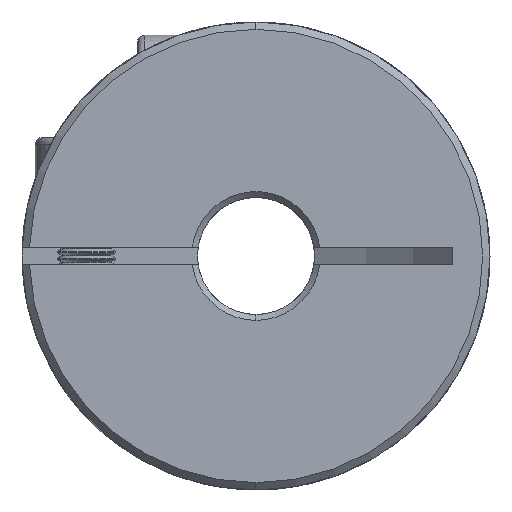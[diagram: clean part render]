
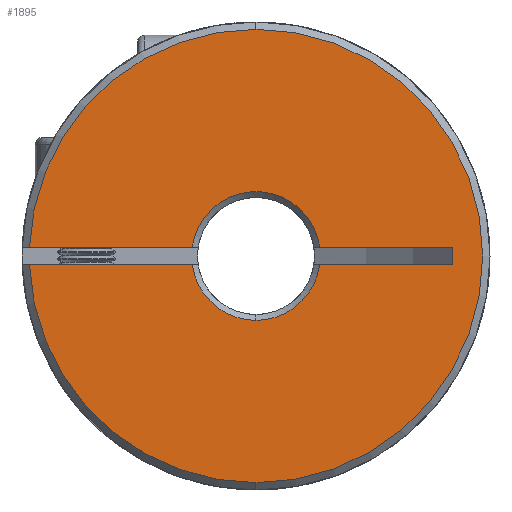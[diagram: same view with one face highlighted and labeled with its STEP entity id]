
A CAD part, front view. The second image highlights one B-rep face of the part: STEP entity #1895.
In plain terms, the highlighted planar face has unit normal (0, -1, 0).
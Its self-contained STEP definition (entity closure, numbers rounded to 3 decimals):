
#118 = ORIENTED_EDGE ( 'NONE', *, *, #6146, .T. ) ;
#186 = DIRECTION ( 'NONE',  ( 0., 1., 0. ) ) ;
#410 = EDGE_CURVE ( 'NONE', #6939, #7212, #11146, .T. ) ;
#692 = VERTEX_POINT ( 'NONE', #717 ) ;
#717 = CARTESIAN_POINT ( 'NONE',  ( 4.359, 0., -0.6 ) ) ;
#764 = VERTEX_POINT ( 'NONE', #2500 ) ;
#821 = AXIS2_PLACEMENT_3D ( 'NONE', #2022, #9935, #6406 ) ;
#934 = EDGE_CURVE ( 'NONE', #692, #9955, #5438, .T. ) ;
#1297 = DIRECTION ( 'NONE',  ( 0., 0., 1. ) ) ;
#1324 = VERTEX_POINT ( 'NONE', #6075 ) ;
#1328 = CARTESIAN_POINT ( 'NONE',  ( 4.359, 0., 0.6 ) ) ;
#1417 = AXIS2_PLACEMENT_3D ( 'NONE', #1776, #8782, #7068 ) ;
#1471 = CARTESIAN_POINT ( 'NONE',  ( -50., 0., -0.6 ) ) ;
#1657 = VERTEX_POINT ( 'NONE', #8753 ) ;
#1734 = CIRCLE ( 'NONE', #5771, 4.4 ) ;
#1776 = CARTESIAN_POINT ( 'NONE',  ( 0., 0., 0. ) ) ;
#1840 = EDGE_CURVE ( 'NONE', #6159, #764, #8676, .T. ) ;
#1847 = CIRCLE ( 'NONE', #6587, 15.5 ) ;
#1867 = DIRECTION ( 'NONE',  ( 0., 0., 1. ) ) ;
#1895 = ADVANCED_FACE ( 'NONE', ( #3779 ), #5806, .F. ) ;
#2022 = CARTESIAN_POINT ( 'NONE',  ( 0., 0., 0. ) ) ;
#2072 = ORIENTED_EDGE ( 'NONE', *, *, #10745, .T. ) ;
#2179 = CARTESIAN_POINT ( 'NONE',  ( 0., 0., 0. ) ) ;
#2254 = CARTESIAN_POINT ( 'NONE',  ( 0., 0., 0. ) ) ;
#2500 = CARTESIAN_POINT ( 'NONE',  ( 0., 0., 15.5 ) ) ;
#2664 = CARTESIAN_POINT ( 'NONE',  ( 0., 0., -4.4 ) ) ;
#3198 = CARTESIAN_POINT ( 'NONE',  ( -15.488, 0., -0.6 ) ) ;
#3264 = EDGE_LOOP ( 'NONE', ( #3733, #4674, #5508, #4346, #5836, #8908, #118, #10288, #6972, #4108, #2072 ) ) ;
#3331 = VECTOR ( 'NONE', #5208, 1000. ) ;
#3517 = VECTOR ( 'NONE', #3980, 1000. ) ;
#3559 = EDGE_CURVE ( 'NONE', #6939, #6159, #10950, .T. ) ;
#3686 = CARTESIAN_POINT ( 'NONE',  ( 0., 0., 0. ) ) ;
#3733 = ORIENTED_EDGE ( 'NONE', *, *, #410, .F. ) ;
#3773 = DIRECTION ( 'NONE',  ( 0., 0., 1. ) ) ;
#3779 = FACE_OUTER_BOUND ( 'NONE', #3264, .T. ) ;
#3830 = EDGE_CURVE ( 'NONE', #692, #5682, #1734, .T. ) ;
#3897 = DIRECTION ( 'NONE',  ( 0., 0., 1. ) ) ;
#3980 = DIRECTION ( 'NONE',  ( 1., 0., 0. ) ) ;
#4108 = ORIENTED_EDGE ( 'NONE', *, *, #3830, .T. ) ;
#4326 = CIRCLE ( 'NONE', #821, 4.4 ) ;
#4340 = CARTESIAN_POINT ( 'NONE',  ( -50., 0., -0.6 ) ) ;
#4346 = ORIENTED_EDGE ( 'NONE', *, *, #5467, .T. ) ;
#4449 = CARTESIAN_POINT ( 'NONE',  ( 13.436, 0., -0.6 ) ) ;
#4674 = ORIENTED_EDGE ( 'NONE', *, *, #3559, .T. ) ;
#4769 = DIRECTION ( 'NONE',  ( 0., 1., 0. ) ) ;
#4809 = CARTESIAN_POINT ( 'NONE',  ( -50., 0., 0.6 ) ) ;
#5032 = CARTESIAN_POINT ( 'NONE',  ( 13.436, 0., -0.6 ) ) ;
#5208 = DIRECTION ( 'NONE',  ( 1., 0., 0. ) ) ;
#5438 = LINE ( 'NONE', #4340, #6919 ) ;
#5467 = EDGE_CURVE ( 'NONE', #764, #1324, #1847, .T. ) ;
#5508 = ORIENTED_EDGE ( 'NONE', *, *, #1840, .T. ) ;
#5659 = DIRECTION ( 'NONE',  ( 0., -1., 0. ) ) ;
#5682 = VERTEX_POINT ( 'NONE', #2664 ) ;
#5741 = VERTEX_POINT ( 'NONE', #8785 ) ;
#5771 = AXIS2_PLACEMENT_3D ( 'NONE', #3686, #186, #1867 ) ;
#5806 = PLANE ( 'NONE',  #8892 ) ;
#5836 = ORIENTED_EDGE ( 'NONE', *, *, #6391, .T. ) ;
#5929 = CIRCLE ( 'NONE', #1417, 4.4 ) ;
#6059 = EDGE_CURVE ( 'NONE', #5741, #7280, #5929, .T. ) ;
#6075 = CARTESIAN_POINT ( 'NONE',  ( -15.488, 0., 0.6 ) ) ;
#6146 = EDGE_CURVE ( 'NONE', #7280, #1657, #9187, .T. ) ;
#6159 = VERTEX_POINT ( 'NONE', #8859 ) ;
#6391 = EDGE_CURVE ( 'NONE', #1324, #5741, #9613, .T. ) ;
#6406 = DIRECTION ( 'NONE',  ( 0., 0., 1. ) ) ;
#6468 = CARTESIAN_POINT ( 'NONE',  ( -4.359, 0., -0.6 ) ) ;
#6469 = EDGE_CURVE ( 'NONE', #1657, #9955, #8645, .T. ) ;
#6567 = CARTESIAN_POINT ( 'NONE',  ( -50., 0., -18.413 ) ) ;
#6587 = AXIS2_PLACEMENT_3D ( 'NONE', #2254, #10039, #1297 ) ;
#6692 = DIRECTION ( 'NONE',  ( 0., 0., 1. ) ) ;
#6700 = AXIS2_PLACEMENT_3D ( 'NONE', #8470, #10220, #6692 ) ;
#6919 = VECTOR ( 'NONE', #7196, 1000. ) ;
#6939 = VERTEX_POINT ( 'NONE', #3198 ) ;
#6972 = ORIENTED_EDGE ( 'NONE', *, *, #934, .F. ) ;
#7068 = DIRECTION ( 'NONE',  ( 0., 0., 1. ) ) ;
#7196 = DIRECTION ( 'NONE',  ( 1., 0., 0. ) ) ;
#7212 = VERTEX_POINT ( 'NONE', #6468 ) ;
#7280 = VERTEX_POINT ( 'NONE', #1328 ) ;
#7291 = VECTOR ( 'NONE', #9112, 1000. ) ;
#8378 = DIRECTION ( 'NONE',  ( 0., 0., -1. ) ) ;
#8470 = CARTESIAN_POINT ( 'NONE',  ( 0., 0., 0. ) ) ;
#8645 = LINE ( 'NONE', #5032, #9868 ) ;
#8676 = CIRCLE ( 'NONE', #6700, 15.5 ) ;
#8753 = CARTESIAN_POINT ( 'NONE',  ( 13.436, 0., 0.6 ) ) ;
#8782 = DIRECTION ( 'NONE',  ( 0., 1., 0. ) ) ;
#8785 = CARTESIAN_POINT ( 'NONE',  ( -4.359, 0., 0.6 ) ) ;
#8859 = CARTESIAN_POINT ( 'NONE',  ( 0., 0., -15.5 ) ) ;
#8892 = AXIS2_PLACEMENT_3D ( 'NONE', #6567, #4769, #3897 ) ;
#8908 = ORIENTED_EDGE ( 'NONE', *, *, #6059, .T. ) ;
#9112 = DIRECTION ( 'NONE',  ( 1., 0., 0. ) ) ;
#9187 = LINE ( 'NONE', #10404, #3331 ) ;
#9613 = LINE ( 'NONE', #4809, #7291 ) ;
#9868 = VECTOR ( 'NONE', #8378, 1000. ) ;
#9911 = AXIS2_PLACEMENT_3D ( 'NONE', #2179, #5659, #3773 ) ;
#9935 = DIRECTION ( 'NONE',  ( 0., 1., 0. ) ) ;
#9955 = VERTEX_POINT ( 'NONE', #4449 ) ;
#10039 = DIRECTION ( 'NONE',  ( 0., -1., 0. ) ) ;
#10220 = DIRECTION ( 'NONE',  ( 0., -1., 0. ) ) ;
#10288 = ORIENTED_EDGE ( 'NONE', *, *, #6469, .T. ) ;
#10404 = CARTESIAN_POINT ( 'NONE',  ( -50., 0., 0.6 ) ) ;
#10745 = EDGE_CURVE ( 'NONE', #5682, #7212, #4326, .T. ) ;
#10950 = CIRCLE ( 'NONE', #9911, 15.5 ) ;
#11146 = LINE ( 'NONE', #1471, #3517 ) ;
